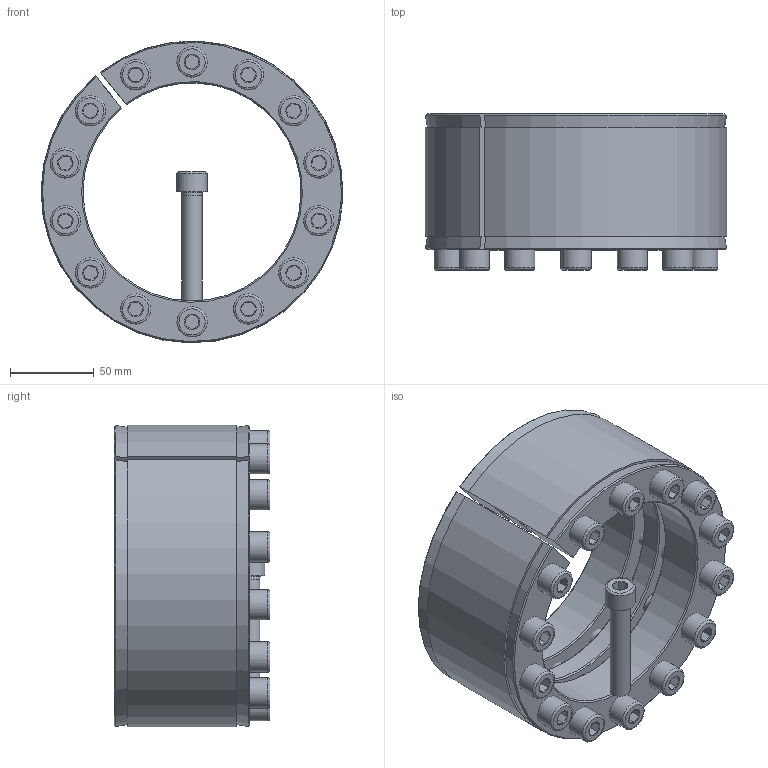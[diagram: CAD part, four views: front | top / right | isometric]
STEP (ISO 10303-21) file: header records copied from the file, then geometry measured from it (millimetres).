
FILE_DESCRIPTION( ( 'Unknown' ), '1' );
FILE_NAME( 'C:/Users/Frank/Eigene Daten/CAD/Solid Edge/KBK Karpstein/KBS Layout Baureihen/KBS 18/KBS - 130 x 180.stp', 'Unknown', ( 'Unknown' ), ( 'Unknown' ), 'XStep 1.0', 'Unknown', ' ' );
FILE_SCHEMA( ( 'automotive_design' ) );
Length unit declared in the file: millimetre
Products named in the file (3): Assem1; ISO EN DIN 4762 M12x65; KBS 18 - 130 x 180
Bounding box: 179.95 x 93 x 179.91 mm (x, y, z)
Volume: 1624820 mm3; surface area: 393653.7 mm2
Topology: 17 solids, 17 shells, 511 faces, 1089 edges, 672 vertices
Faces by surface type: plane 200, cylinder 152, cone 129, torus 30
Full cylindrical faces by diameter (mm): 10.106 x28, 11 x15, 12 x30, 13 x56, 18 x15
Entity records: 3190 total; most frequent: CARTESIAN_POINT 573, DIRECTION 504, ORIENTED_EDGE 382, AXIS2_PLACEMENT_3D 234, EDGE_LOOP 230, EDGE_CURVE 191, VERTEX_POINT 155, FACE_OUTER_BOUND 141
